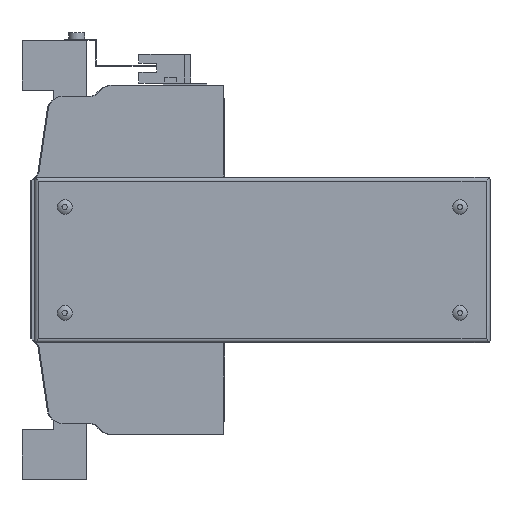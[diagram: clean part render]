
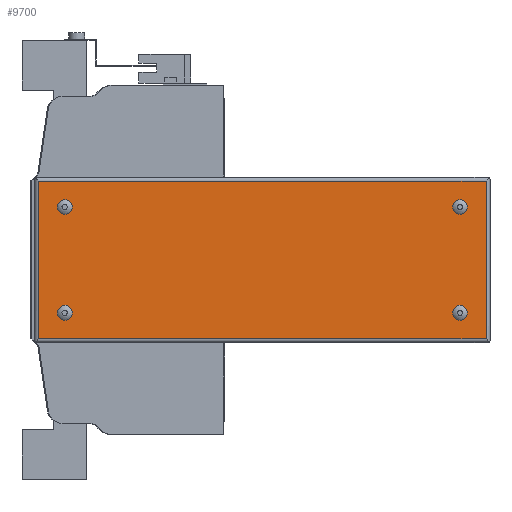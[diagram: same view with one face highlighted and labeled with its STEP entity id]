
A CAD part, left-side view. The second image highlights one B-rep face of the part: STEP entity #9700.
In plain terms, the highlighted planar face has unit normal (-1, 0, 0).
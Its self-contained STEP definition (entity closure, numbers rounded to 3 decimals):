
#281=PLANE('',#10441);
#979=LINE('',#14924,#2050);
#980=LINE('',#14927,#2051);
#981=LINE('',#14929,#2052);
#982=LINE('',#14931,#2053);
#2050=VECTOR('',#12104,1000.);
#2051=VECTOR('',#12105,1000.);
#2052=VECTOR('',#12106,1000.);
#2053=VECTOR('',#12107,1000.);
#3792=ORIENTED_EDGE('',*,*,#5955,.F.);
#3793=ORIENTED_EDGE('',*,*,#5956,.F.);
#3794=ORIENTED_EDGE('',*,*,#5957,.F.);
#3795=ORIENTED_EDGE('',*,*,#5958,.F.);
#3796=ORIENTED_EDGE('',*,*,#5959,.F.);
#3797=ORIENTED_EDGE('',*,*,#5960,.F.);
#3798=ORIENTED_EDGE('',*,*,#5961,.T.);
#3799=ORIENTED_EDGE('',*,*,#5962,.T.);
#5955=EDGE_CURVE('',#7143,#7143,#7785,.F.);
#5956=EDGE_CURVE('',#7144,#7144,#7786,.F.);
#5957=EDGE_CURVE('',#7145,#7145,#7787,.F.);
#5958=EDGE_CURVE('',#7146,#7146,#7788,.F.);
#5959=EDGE_CURVE('',#7147,#7148,#979,.T.);
#5960=EDGE_CURVE('',#7149,#7147,#980,.T.);
#5961=EDGE_CURVE('',#7149,#7150,#981,.T.);
#5962=EDGE_CURVE('',#7150,#7148,#982,.T.);
#7143=VERTEX_POINT('',#14917);
#7144=VERTEX_POINT('',#14919);
#7145=VERTEX_POINT('',#14921);
#7146=VERTEX_POINT('',#14923);
#7147=VERTEX_POINT('',#14925);
#7148=VERTEX_POINT('',#14926);
#7149=VERTEX_POINT('',#14928);
#7150=VERTEX_POINT('',#14930);
#7785=CIRCLE('',#10442,3.7);
#7786=CIRCLE('',#10443,3.7);
#7787=CIRCLE('',#10444,3.7);
#7788=CIRCLE('',#10445,3.7);
#8232=EDGE_LOOP('',(#3792));
#8233=EDGE_LOOP('',(#3793));
#8234=EDGE_LOOP('',(#3794));
#8235=EDGE_LOOP('',(#3795));
#8236=EDGE_LOOP('',(#3796,#3797,#3798,#3799));
#8933=FACE_BOUND('',#8232,.T.);
#8934=FACE_BOUND('',#8233,.T.);
#8935=FACE_BOUND('',#8234,.T.);
#8936=FACE_BOUND('',#8235,.T.);
#8937=FACE_BOUND('',#8236,.T.);
#9700=ADVANCED_FACE('',(#8933,#8934,#8935,#8936,#8937),#281,.F.);
#10441=AXIS2_PLACEMENT_3D('',#14915,#12094,#12095);
#10442=AXIS2_PLACEMENT_3D('',#14916,#12096,#12097);
#10443=AXIS2_PLACEMENT_3D('',#14918,#12098,#12099);
#10444=AXIS2_PLACEMENT_3D('',#14920,#12100,#12101);
#10445=AXIS2_PLACEMENT_3D('',#14922,#12102,#12103);
#12094=DIRECTION('',(1.,0.,0.));
#12095=DIRECTION('',(0.,0.,-1.));
#12096=DIRECTION('',(1.,0.,0.));
#12097=DIRECTION('',(0.,0.,-1.));
#12098=DIRECTION('',(1.,0.,0.));
#12099=DIRECTION('',(0.,0.,-1.));
#12100=DIRECTION('',(1.,0.,0.));
#12101=DIRECTION('',(0.,0.,-1.));
#12102=DIRECTION('',(1.,0.,0.));
#12103=DIRECTION('',(0.,0.,-1.));
#12104=DIRECTION('',(0.,-1.,0.));
#12105=DIRECTION('',(0.,0.,1.));
#12106=DIRECTION('',(0.,-1.,0.));
#12107=DIRECTION('',(0.,0.,1.));
#14915=CARTESIAN_POINT('',(-66.,-131.95,40.5));
#14916=CARTESIAN_POINT('',(-66.,-117.95,26.5));
#14917=CARTESIAN_POINT('',(-66.,-117.95,22.8));
#14918=CARTESIAN_POINT('',(-66.,-117.95,-26.5));
#14919=CARTESIAN_POINT('',(-66.,-117.95,-30.2));
#14920=CARTESIAN_POINT('',(-66.,80.05,26.5));
#14921=CARTESIAN_POINT('',(-66.,80.05,22.8));
#14922=CARTESIAN_POINT('',(-66.,80.05,-26.5));
#14923=CARTESIAN_POINT('',(-66.,80.05,-30.2));
#14924=CARTESIAN_POINT('',(-66.,228.,39.5));
#14925=CARTESIAN_POINT('',(-66.,93.05,39.5));
#14926=CARTESIAN_POINT('',(-66.,-130.95,39.5));
#14927=CARTESIAN_POINT('',(-66.,93.05,-83.));
#14928=CARTESIAN_POINT('',(-66.,93.05,-39.5));
#14929=CARTESIAN_POINT('',(-66.,228.,-39.5));
#14930=CARTESIAN_POINT('',(-66.,-130.95,-39.5));
#14931=CARTESIAN_POINT('',(-66.,-130.95,-83.));
